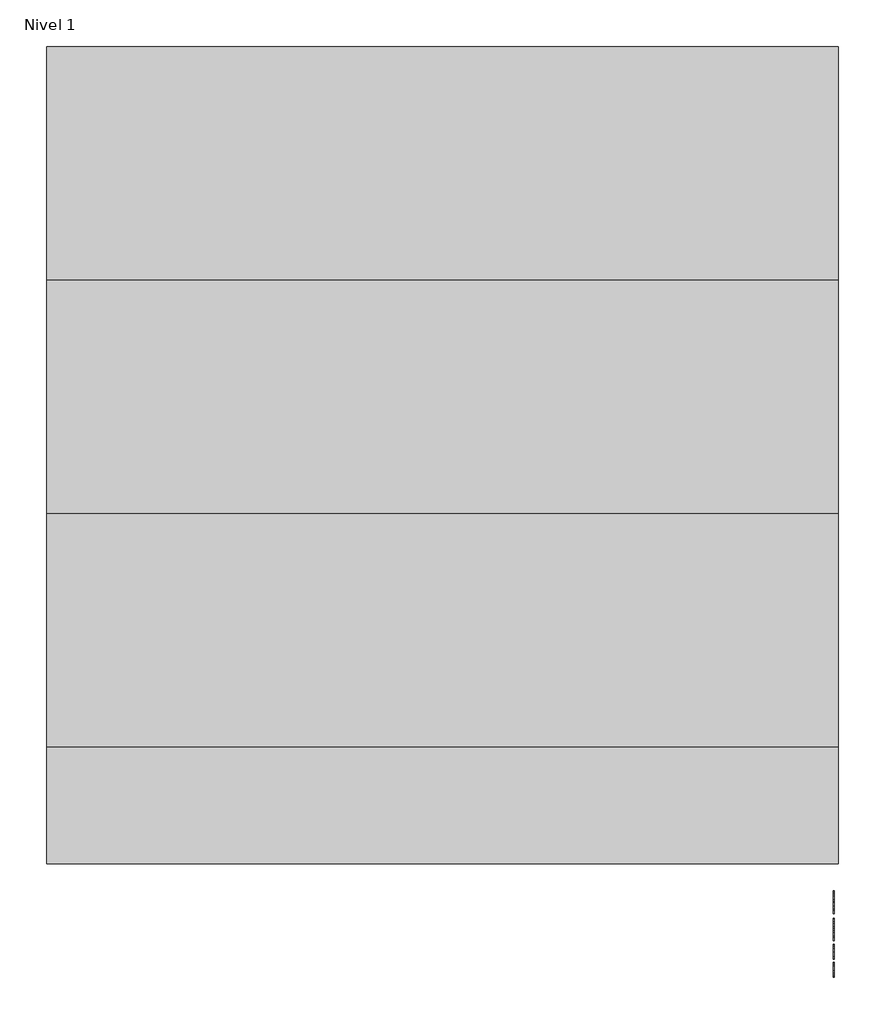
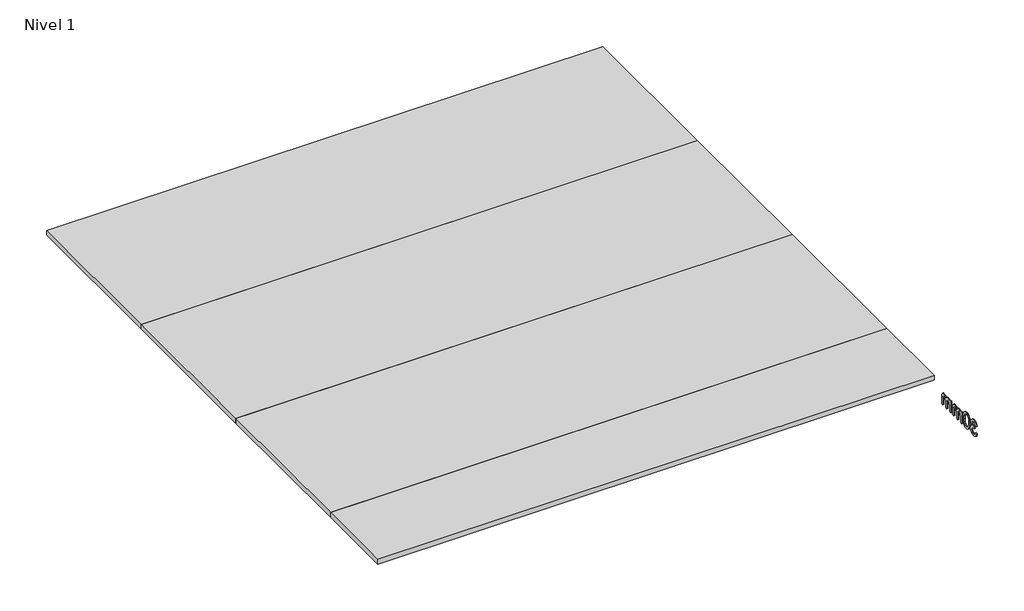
# One storey: 4 plates, 1 proxy.
"""IFC4 building model written with IfcOpenShell, lengths in millimetres."""

from ifc_helpers import new_model, si_unit, frame, origin, place, context, project, spatial, polyline, outline, extrude, transform, mapped, element, save
from components import panel_del_sistema_1ac1ecd3, panel_del_sistema_f5e17b8b

model = new_model("IFC4")

# Units and contexts
model_context = context("Model", 3, world=origin())
ifc_project = project(units=[si_unit("LENGTHUNIT", "METRE", prefix="MILLI")], contexts=[model_context])

# Site, building, storey
site = spatial("IfcSite", under=ifc_project)
building = spatial("IfcBuilding", under=site)
storey = spatial("IfcBuildingStorey", under=building, Name="Nivel 1", Elevation=0.0)

# Proxy
placement = place(None, origin())
element("IfcBuildingElementProxy", 1, Name="100mm Arial", ObjectType="100mm Arial", at=placement, inside=storey, context=model_context, shape_type="SweptSolid", body=[
    extrude(outline(polyline([(14811.6332666, -540.4578656), (14824.1903054, -538.8882358), (14831.1187496, -552.1074622), (14844.0804586, -556.1541641), (14852.6888973, -554.7623439), (14859.3352987, -550.5868832), (14865.0006814, -536.8035712), (14859.3843496, -523.8173367), (14845.1105282, -518.6792515), (14836.3058858, -520.0526776), (14837.7038373, -507.4956389), (14839.7149256, -507.6427917), (14853.9642215, -504.0375481), (14858.7098993, -499.4635487), (14860.2917918, -492.9520373), (14855.7055296, -483.1295881), (14843.8842549, -479.2423016), (14831.9158273, -483.1663763), (14825.7599352, -494.9386001), (14813.2028965, -493.3689703), (14816.9001105, -482.0933871), (14823.4790669, -473.6750208), (14832.479913, -468.4327024), (14843.4427965, -466.6852629), (14858.5872719, -470.1310909), (14869.1822734, -479.54887), (14872.8488306, -492.2162733), (14869.3662144, -503.7922935), (14859.0655185, -512.1064266), (14872.7507287, -520.6903398), (14877.5577201, -537.0243004), (14875.1542244, -549.2625081), (14867.9437373, -559.4896275), (14857.0605616, -566.405809), (14843.6390002, -568.7112029), (14831.4988943, -566.7430342), (14821.6151314, -560.8385282), (14814.7418695, -551.8070252), (14811.6332666, -540.4578656)])), frame((9557.0230098, 0.0, 0.0), z_axis=(1.0, 0.0, 0.0), x_axis=(0.0, 1.0, 0.0)), (0.0, 0.0, 1.0), 5.0),
    extrude(outline(polyline([(14888.5451291, -517.7227583), (14892.2362118, -488.8194963), (14903.1990952, -472.1544419), (14921.5073558, -466.6852629), (14936.1735847, -469.9226244), (14946.3026023, -479.2545644), (14952.1887142, -494.116997), (14954.4695826, -517.7227583), (14950.8152881, -546.5033931), (14939.8891929, -563.2052357), (14931.6578332, -567.3347111), (14921.5073558, -568.7112029), (14908.4598077, -566.3199699), (14898.5515193, -559.146271), (14891.0467266, -542.1562542), (14888.5451291, -517.7227583)]), holes=[polyline([(14901.1021678, -517.6982329), (14902.5736958, -537.4504303), (14906.9882798, -548.8823633), (14913.5611047, -554.3362139), (14921.5073558, -556.1541641), (14929.4536069, -554.3300825), (14936.0264319, -548.8578379), (14940.4410159, -537.4197735), (14941.9125438, -517.6982329), (14940.4900668, -498.3905595), (14936.2226356, -486.8697217), (14929.6620734, -481.1491567), (14921.360203, -479.2423016), (14913.4997911, -480.9222961), (14907.1844835, -485.9622794), (14902.6227467, -498.2004871), (14901.1021678, -517.6982329)])]), frame((9557.0230098, 0.0, 0.0), z_axis=(1.0, 0.0, 0.0), x_axis=(0.0, 1.0, 0.0)), (0.0, 0.0, 1.0), 5.0),
    extrude(outline(polyline([(14968.5962512, -567.141573), (14968.5962512, -493.3689703), (14981.15329, -493.3689703), (14981.15329, -505.5090761), (14989.7862541, -495.5639995), (15002.0735128, -491.7993404), (15014.655077, -495.6375759), (15021.5712585, -506.3919929), (15031.3691823, -495.4475035), (15043.7422801, -491.7993404), (15053.181519, -493.3168536), (15060.1620798, -497.8693933), (15064.4754962, -505.5795868), (15065.9133017, -516.5700614), (15065.9133017, -567.141573), (15053.3562629, -567.141573), (15053.3562629, -521.965664), (15052.1913033, -511.4810272), (15047.972923, -506.3184165), (15040.7992241, -504.3563792), (15028.4506518, -509.3840998), (15024.7626348, -515.9262679), (15023.5332958, -525.4973312), (15023.5332958, -567.141573), (15010.9762571, -567.141573), (15010.9762571, -520.5677124), (15008.0699893, -508.4030811), (14998.5418456, -504.3563792), (14989.2466939, -507.0541805), (14983.0662764, -514.9513806), (14981.15329, -529.9364406), (14981.15329, -567.141573), (14968.5962512, -567.141573)])), frame((9557.0230098, 0.0, 0.0), z_axis=(1.0, 0.0, 0.0), x_axis=(0.0, 1.0, 0.0)), (0.0, 0.0, 1.0), 5.0),
    extrude(outline(polyline([(15084.7488598, -567.141573), (15084.7488598, -493.3689703), (15097.3058986, -493.3689703), (15097.3058986, -505.5090761), (15105.9388628, -495.5639995), (15118.2261214, -491.7993404), (15130.8076856, -495.6375759), (15137.7238671, -506.3919929), (15147.5217909, -495.4475035), (15159.8948887, -491.7993404), (15169.3341276, -493.3168536), (15176.3146884, -497.8693933), (15180.6281048, -505.5795868), (15182.0659103, -516.5700614), (15182.0659103, -567.141573), (15169.5088715, -567.141573), (15169.5088715, -521.965664), (15168.3439119, -511.4810272), (15164.1255317, -506.3184165), (15156.9518327, -504.3563792), (15144.6032604, -509.3840998), (15140.9152434, -515.9262679), (15139.6859044, -525.4973312), (15139.6859044, -567.141573), (15127.1288657, -567.141573), (15127.1288657, -520.5677124), (15124.2225979, -508.4030811), (15114.6944542, -504.3563792), (15105.3993025, -507.0541805), (15099.218885, -514.9513806), (15097.3058986, -529.9364406), (15097.3058986, -567.141573), (15084.7488598, -567.141573)])), frame((9557.0230098, 0.0, 0.0), z_axis=(1.0, 0.0, 0.0), x_axis=(0.0, 1.0, 0.0)), (0.0, 0.0, 1.0), 5.0),
])

# Plates
panel_del_sistema_shape = panel_del_sistema_1ac1ecd3(model_context)
element("IfcPlate", 2, ObjectType="Panel del sistema : HIANSA PANEL - PANELES DE CUBIERTA SIN TAPAJUNTA - EASY BOARD 3GR - Esp. 30mm", at=placement, inside=storey, context=model_context, shape_type="MappedRepresentation", body=[
    mapped(panel_del_sistema_shape, transform((9579.0356399, 18298.3330794, -529.5962409), x_axis=(0.0, -1.0, 0.0), y_axis=(0.0, 0.0, 1.0), z_axis=(-1.0, 0.0, 0.0))),
])
element("IfcPlate", 3, ObjectType="Panel del sistema : HIANSA PANEL - PANELES DE CUBIERTA SIN TAPAJUNTA - EASY BOARD 3GR - Esp. 30mm", at=placement, inside=storey, context=model_context, shape_type="MappedRepresentation", body=[
    mapped(panel_del_sistema_shape, transform((9579.0356399, 17298.3330793, -529.5962409), x_axis=(0.0, -1.0, 0.0), y_axis=(0.0, 0.0, 1.0), z_axis=(-1.0, 0.0, 0.0))),
])
element("IfcPlate", 4, ObjectType="Panel del sistema : HIANSA PANEL - PANELES DE CUBIERTA SIN TAPAJUNTA - EASY BOARD 3GR - Esp. 30mm", at=placement, inside=storey, context=model_context, shape_type="MappedRepresentation", body=[
    mapped(panel_del_sistema_shape, transform((9579.0356399, 16298.3330793, -529.5962409), x_axis=(0.0, -1.0, 0.0), y_axis=(0.0, 0.0, 1.0), z_axis=(-1.0, 0.0, 0.0))),
])
panel_del_sistema_2_shape = panel_del_sistema_f5e17b8b(model_context)
element("IfcPlate", 5, ObjectType="Panel del sistema : HIANSA PANEL - PANELES DE CUBIERTA SIN TAPAJUNTA - EASY BOARD 3GR - Esp. 30mm", at=placement, inside=storey, context=model_context, shape_type="MappedRepresentation", body=[
    mapped(panel_del_sistema_2_shape, transform((9579.0356399, 15548.3330794, -529.5962409), x_axis=(0.0, -1.0, 0.0), y_axis=(0.0, 0.0, 1.0), z_axis=(-1.0, 0.0, 0.0))),
])

save(model, "model.ifc")
